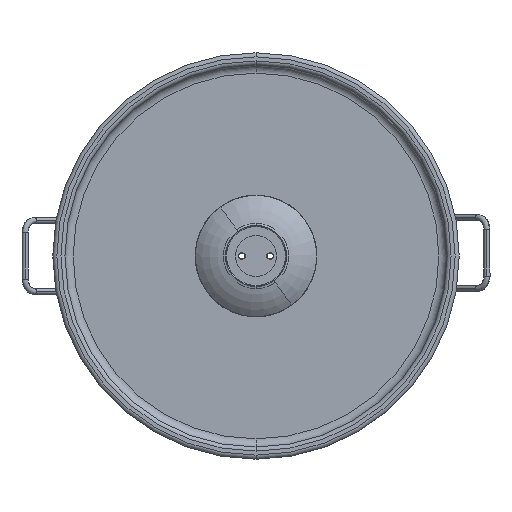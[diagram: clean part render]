
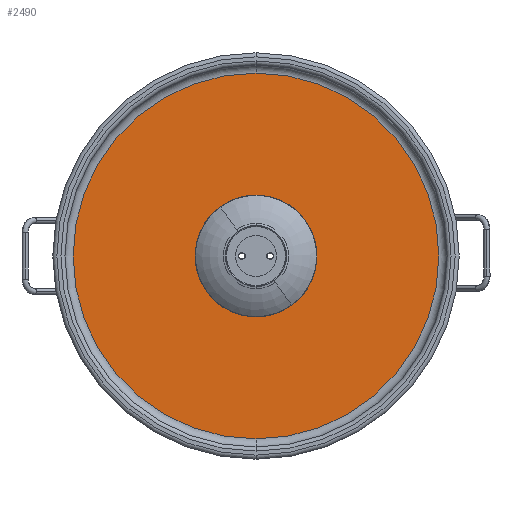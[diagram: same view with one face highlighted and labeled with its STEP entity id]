
A CAD part, front view. The second image highlights one B-rep face of the part: STEP entity #2490.
In plain terms, the highlighted planar face has unit normal (0, -1, 0).
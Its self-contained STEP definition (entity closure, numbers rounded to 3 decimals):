
#89 = ORIENTED_EDGE ( 'NONE', *, *, #5853, .T. ) ;
#287 = CIRCLE ( 'NONE', #1490, 9.25 ) ;
#409 = ORIENTED_EDGE ( 'NONE', *, *, #4535, .T. ) ;
#437 = DIRECTION ( 'NONE',  ( 0., -1., 0. ) ) ;
#606 = AXIS2_PLACEMENT_3D ( 'NONE', #4706, #437, #4020 ) ;
#1179 = AXIS2_PLACEMENT_3D ( 'NONE', #1206, #6843, #3376 ) ;
#1206 = CARTESIAN_POINT ( 'NONE',  ( 0., 259.612, 0. ) ) ;
#1490 = AXIS2_PLACEMENT_3D ( 'NONE', #3480, #9190, #5622 ) ;
#2490 = ADVANCED_FACE ( 'NONE', ( #7764, #9116 ), #7068, .F. ) ;
#2653 = VERTEX_POINT ( 'NONE', #3784 ) ;
#2845 = EDGE_CURVE ( 'NONE', #2653, #4398, #6157, .T. ) ;
#2879 = VERTEX_POINT ( 'NONE', #5314 ) ;
#3331 = CARTESIAN_POINT ( 'NONE',  ( 0., 259.612, 45. ) ) ;
#3376 = DIRECTION ( 'NONE',  ( 0., 0., -1. ) ) ;
#3480 = CARTESIAN_POINT ( 'NONE',  ( 0., 259.612, 0. ) ) ;
#3508 = CARTESIAN_POINT ( 'NONE',  ( -45., 259.612, 0. ) ) ;
#3597 = CIRCLE ( 'NONE', #8971, 9.25 ) ;
#3784 = CARTESIAN_POINT ( 'NONE',  ( 0., 259.612, -45. ) ) ;
#3822 = VERTEX_POINT ( 'NONE', #9217 ) ;
#4020 = DIRECTION ( 'NONE',  ( 0., 0., -1. ) ) ;
#4307 = DIRECTION ( 'NONE',  ( 0., 1., 0. ) ) ;
#4398 = VERTEX_POINT ( 'NONE', #3331 ) ;
#4535 = EDGE_CURVE ( 'NONE', #4398, #2653, #7754, .T. ) ;
#4706 = CARTESIAN_POINT ( 'NONE',  ( 0., 259.612, 0. ) ) ;
#4856 = ORIENTED_EDGE ( 'NONE', *, *, #2845, .T. ) ;
#5314 = CARTESIAN_POINT ( 'NONE',  ( 0., 259.612, -9.25 ) ) ;
#5622 = DIRECTION ( 'NONE',  ( 0., 0., 1. ) ) ;
#5794 = DIRECTION ( 'NONE',  ( 0., 0., 1. ) ) ;
#5853 = EDGE_CURVE ( 'NONE', #3822, #2879, #287, .T. ) ;
#6079 = EDGE_CURVE ( 'NONE', #2879, #3822, #3597, .T. ) ;
#6157 = CIRCLE ( 'NONE', #606, 45. ) ;
#6362 = DIRECTION ( 'NONE',  ( 0., 1., 0. ) ) ;
#6749 = AXIS2_PLACEMENT_3D ( 'NONE', #3508, #6362, #7666 ) ;
#6843 = DIRECTION ( 'NONE',  ( 0., -1., 0. ) ) ;
#7068 = PLANE ( 'NONE',  #6749 ) ;
#7109 = CARTESIAN_POINT ( 'NONE',  ( 0., 259.612, 0. ) ) ;
#7110 = ORIENTED_EDGE ( 'NONE', *, *, #6079, .T. ) ;
#7666 = DIRECTION ( 'NONE',  ( 0., 0., 1. ) ) ;
#7754 = CIRCLE ( 'NONE', #1179, 45. ) ;
#7764 = FACE_BOUND ( 'NONE', #8318, .T. ) ;
#8318 = EDGE_LOOP ( 'NONE', ( #89, #7110 ) ) ;
#8971 = AXIS2_PLACEMENT_3D ( 'NONE', #7109, #4307, #5794 ) ;
#8978 = EDGE_LOOP ( 'NONE', ( #4856, #409 ) ) ;
#9116 = FACE_OUTER_BOUND ( 'NONE', #8978, .T. ) ;
#9190 = DIRECTION ( 'NONE',  ( 0., 1., 0. ) ) ;
#9217 = CARTESIAN_POINT ( 'NONE',  ( 0., 259.612, 9.25 ) ) ;
